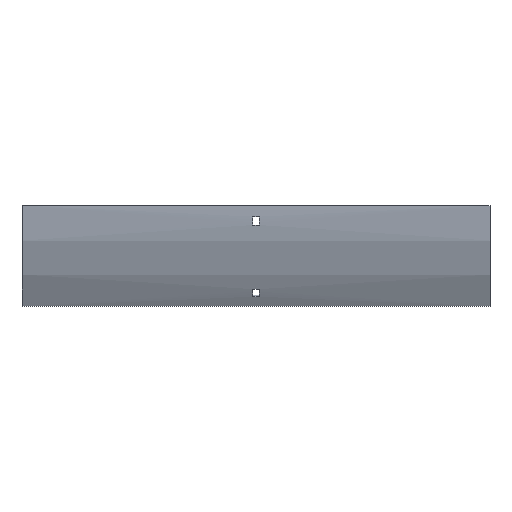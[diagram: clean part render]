
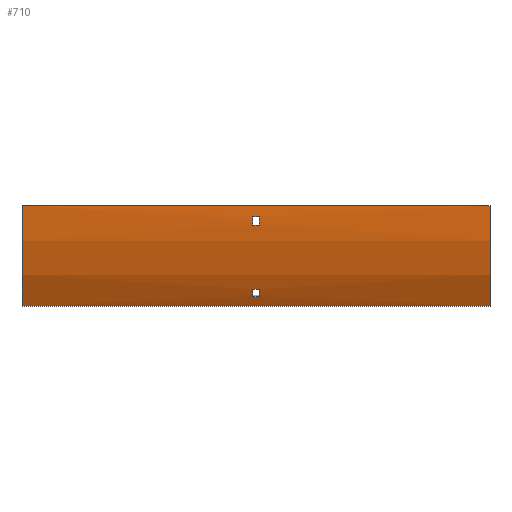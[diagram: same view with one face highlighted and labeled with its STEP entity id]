
A CAD part, front view. The second image highlights one B-rep face of the part: STEP entity #710.
In plain terms, the highlighted cylindrical face has radius 217.5 mm (diameter 435 mm), a partial arc.
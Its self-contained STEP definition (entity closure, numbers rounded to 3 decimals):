
#29 = CIRCLE ( 'NONE', #1672, 217.5 ) ;
#39 = ORIENTED_EDGE ( 'NONE', *, *, #478, .T. ) ;
#46 = CARTESIAN_POINT ( 'NONE',  ( -3.25, -97.98, -90.055 ) ) ;
#62 = ORIENTED_EDGE ( 'NONE', *, *, #408, .F. ) ;
#70 = CARTESIAN_POINT ( 'NONE',  ( 3.25, 100., 0. ) ) ;
#92 = DIRECTION ( 'NONE',  ( 0., 0., -1. ) ) ;
#101 = EDGE_CURVE ( 'NONE', #610, #701, #334, .T. ) ;
#119 = ORIENTED_EDGE ( 'NONE', *, *, #624, .T. ) ;
#138 = VECTOR ( 'NONE', #439, 1000. ) ;
#175 = CIRCLE ( 'NONE', #1160, 217.5 ) ;
#177 = CYLINDRICAL_SURFACE ( 'NONE', #1415, 217.5 ) ;
#185 = VERTEX_POINT ( 'NONE', #46 ) ;
#198 = CARTESIAN_POINT ( 'NONE',  ( 252., -88.361, -108.75 ) ) ;
#235 = DIRECTION ( 'NONE',  ( 0., 0., 1. ) ) ;
#252 = DIRECTION ( 'NONE',  ( 1., 0., 0. ) ) ;
#267 = DIRECTION ( 'NONE',  ( 1., 0., 0. ) ) ;
#280 = CARTESIAN_POINT ( 'NONE',  ( 252., 100., 0. ) ) ;
#286 = VECTOR ( 'NONE', #252, 1000. ) ;
#291 = CARTESIAN_POINT ( 'NONE',  ( 252., -88.361, -108.75 ) ) ;
#310 = AXIS2_PLACEMENT_3D ( 'NONE', #700, #825, #692 ) ;
#334 = CIRCLE ( 'NONE', #1265, 217.5 ) ;
#335 = AXIS2_PLACEMENT_3D ( 'NONE', #1248, #1275, #499 ) ;
#379 = ORIENTED_EDGE ( 'NONE', *, *, #632, .F. ) ;
#408 = EDGE_CURVE ( 'NONE', #1330, #1404, #175, .T. ) ;
#420 = ORIENTED_EDGE ( 'NONE', *, *, #101, .F. ) ;
#425 = EDGE_CURVE ( 'NONE', #889, #853, #1437, .T. ) ;
#428 = ORIENTED_EDGE ( 'NONE', *, *, #1134, .T. ) ;
#439 = DIRECTION ( 'NONE',  ( -1., 0., 0. ) ) ;
#440 = CARTESIAN_POINT ( 'NONE',  ( 252., -97.98, -90.055 ) ) ;
#442 = EDGE_CURVE ( 'NONE', #1182, #610, #1042, .T. ) ;
#468 = CARTESIAN_POINT ( 'NONE',  ( 3.25, -94.074, -98.192 ) ) ;
#478 = EDGE_CURVE ( 'NONE', #1218, #889, #29, .T. ) ;
#492 = CARTESIAN_POINT ( 'NONE',  ( 3.25, -117.169, -12. ) ) ;
#497 = CARTESIAN_POINT ( 'NONE',  ( -252., -88.361, -108.75 ) ) ;
#499 = DIRECTION ( 'NONE',  ( 0., 0., -1. ) ) ;
#549 = DIRECTION ( 'NONE',  ( -1., 0., 0. ) ) ;
#610 = VERTEX_POINT ( 'NONE', #468 ) ;
#621 = CIRCLE ( 'NONE', #868, 217.5 ) ;
#624 = EDGE_CURVE ( 'NONE', #853, #1542, #621, .T. ) ;
#632 = EDGE_CURVE ( 'NONE', #701, #185, #1644, .T. ) ;
#638 = CARTESIAN_POINT ( 'NONE',  ( -3.25, -117.169, -12. ) ) ;
#675 = VERTEX_POINT ( 'NONE', #807 ) ;
#678 = LINE ( 'NONE', #291, #703 ) ;
#680 = VECTOR ( 'NONE', #963, 1000. ) ;
#692 = DIRECTION ( 'NONE',  ( 0., 0., -1. ) ) ;
#700 = CARTESIAN_POINT ( 'NONE',  ( -252., 100., 0. ) ) ;
#701 = VERTEX_POINT ( 'NONE', #1367 ) ;
#703 = VECTOR ( 'NONE', #822, 1000. ) ;
#704 = EDGE_CURVE ( 'NONE', #1404, #1041, #678, .T. ) ;
#710 = ADVANCED_FACE ( 'NONE', ( #1341, #1484, #1609 ), #177, .T. ) ;
#737 = CARTESIAN_POINT ( 'NONE',  ( 3.25, 100., 0. ) ) ;
#755 = EDGE_LOOP ( 'NONE', ( #1562, #1469, #62, #428 ) ) ;
#807 = CARTESIAN_POINT ( 'NONE',  ( -252., -117.5, 0. ) ) ;
#822 = DIRECTION ( 'NONE',  ( -1., 0., 0. ) ) ;
#825 = DIRECTION ( 'NONE',  ( 1., 0., 0. ) ) ;
#829 = CARTESIAN_POINT ( 'NONE',  ( -3.25, -94.074, -98.192 ) ) ;
#853 = VERTEX_POINT ( 'NONE', #492 ) ;
#858 = DIRECTION ( 'NONE',  ( 1., 0., 0. ) ) ;
#862 = CARTESIAN_POINT ( 'NONE',  ( 252., -116.484, -21. ) ) ;
#868 = AXIS2_PLACEMENT_3D ( 'NONE', #737, #858, #1363 ) ;
#871 = VECTOR ( 'NONE', #267, 1000. ) ;
#889 = VERTEX_POINT ( 'NONE', #638 ) ;
#892 = ORIENTED_EDGE ( 'NONE', *, *, #1645, .F. ) ;
#963 = DIRECTION ( 'NONE',  ( -1., 0., 0. ) ) ;
#970 = EDGE_LOOP ( 'NONE', ( #892, #379, #420, #1268 ) ) ;
#971 = EDGE_CURVE ( 'NONE', #675, #1041, #1355, .T. ) ;
#989 = LINE ( 'NONE', #862, #1104 ) ;
#1041 = VERTEX_POINT ( 'NONE', #497 ) ;
#1042 = LINE ( 'NONE', #1157, #871 ) ;
#1049 = CARTESIAN_POINT ( 'NONE',  ( 252., -117.169, -12. ) ) ;
#1060 = DIRECTION ( 'NONE',  ( -1., 0., 0. ) ) ;
#1070 = CIRCLE ( 'NONE', #335, 217.5 ) ;
#1079 = DIRECTION ( 'NONE',  ( 0., 0., 1. ) ) ;
#1100 = ORIENTED_EDGE ( 'NONE', *, *, #1400, .T. ) ;
#1104 = VECTOR ( 'NONE', #1381, 1000. ) ;
#1134 = EDGE_CURVE ( 'NONE', #1330, #675, #1215, .T. ) ;
#1157 = CARTESIAN_POINT ( 'NONE',  ( 252., -94.074, -98.192 ) ) ;
#1160 = AXIS2_PLACEMENT_3D ( 'NONE', #1277, #1267, #92 ) ;
#1165 = CARTESIAN_POINT ( 'NONE',  ( -3.25, -116.484, -21. ) ) ;
#1173 = CARTESIAN_POINT ( 'NONE',  ( -3.25, 100., 0. ) ) ;
#1182 = VERTEX_POINT ( 'NONE', #829 ) ;
#1196 = CARTESIAN_POINT ( 'NONE',  ( 252., -117.5, 0. ) ) ;
#1199 = DIRECTION ( 'NONE',  ( 0., 0., 1. ) ) ;
#1215 = LINE ( 'NONE', #1620, #138 ) ;
#1218 = VERTEX_POINT ( 'NONE', #1165 ) ;
#1248 = CARTESIAN_POINT ( 'NONE',  ( -3.25, 100., 0. ) ) ;
#1265 = AXIS2_PLACEMENT_3D ( 'NONE', #70, #1420, #235 ) ;
#1267 = DIRECTION ( 'NONE',  ( 1., 0., 0. ) ) ;
#1268 = ORIENTED_EDGE ( 'NONE', *, *, #442, .F. ) ;
#1275 = DIRECTION ( 'NONE',  ( 1., 0., 0. ) ) ;
#1277 = CARTESIAN_POINT ( 'NONE',  ( 252., 100., 0. ) ) ;
#1330 = VERTEX_POINT ( 'NONE', #1196 ) ;
#1339 = CARTESIAN_POINT ( 'NONE',  ( 3.25, -116.484, -21. ) ) ;
#1341 = FACE_OUTER_BOUND ( 'NONE', #755, .T. ) ;
#1355 = CIRCLE ( 'NONE', #310, 217.5 ) ;
#1363 = DIRECTION ( 'NONE',  ( 0., 0., -1. ) ) ;
#1367 = CARTESIAN_POINT ( 'NONE',  ( 3.25, -97.98, -90.055 ) ) ;
#1381 = DIRECTION ( 'NONE',  ( -1., 0., 0. ) ) ;
#1400 = EDGE_CURVE ( 'NONE', #1542, #1218, #989, .T. ) ;
#1404 = VERTEX_POINT ( 'NONE', #198 ) ;
#1415 = AXIS2_PLACEMENT_3D ( 'NONE', #280, #1060, #1079 ) ;
#1420 = DIRECTION ( 'NONE',  ( -1., 0., 0. ) ) ;
#1437 = LINE ( 'NONE', #1049, #286 ) ;
#1469 = ORIENTED_EDGE ( 'NONE', *, *, #704, .F. ) ;
#1484 = FACE_BOUND ( 'NONE', #1613, .T. ) ;
#1542 = VERTEX_POINT ( 'NONE', #1339 ) ;
#1562 = ORIENTED_EDGE ( 'NONE', *, *, #971, .T. ) ;
#1603 = ORIENTED_EDGE ( 'NONE', *, *, #425, .T. ) ;
#1609 = FACE_BOUND ( 'NONE', #970, .T. ) ;
#1613 = EDGE_LOOP ( 'NONE', ( #1100, #39, #1603, #119 ) ) ;
#1620 = CARTESIAN_POINT ( 'NONE',  ( 252., -117.5, 0. ) ) ;
#1644 = LINE ( 'NONE', #440, #680 ) ;
#1645 = EDGE_CURVE ( 'NONE', #185, #1182, #1070, .T. ) ;
#1672 = AXIS2_PLACEMENT_3D ( 'NONE', #1173, #549, #1199 ) ;
